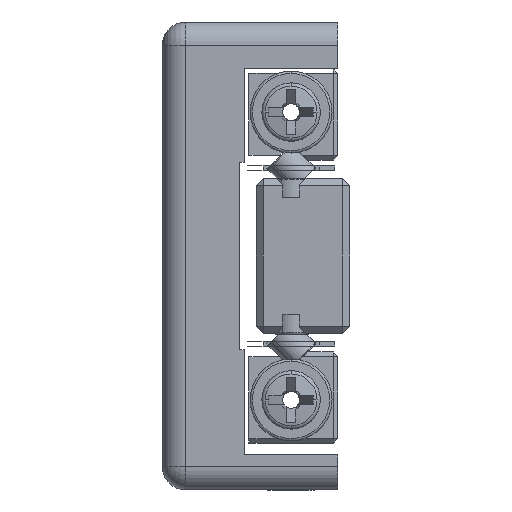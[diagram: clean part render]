
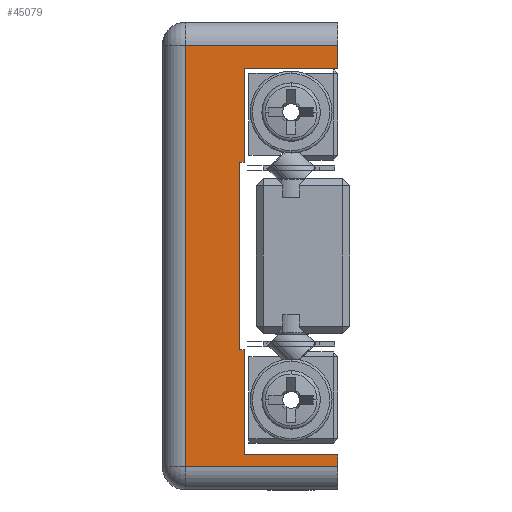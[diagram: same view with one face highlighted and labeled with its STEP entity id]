
A CAD part, left-side view. The second image highlights one B-rep face of the part: STEP entity #45079.
In plain terms, the highlighted planar face has unit normal (-1, 0, 0).
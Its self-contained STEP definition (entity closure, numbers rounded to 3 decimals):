
#1824 = ORIENTED_EDGE ( 'NONE', *, *, #7241, .F. ) ;
#1827 = ORIENTED_EDGE ( 'NONE', *, *, #7199, .F. ) ;
#1830 = ORIENTED_EDGE ( 'NONE', *, *, #7121, .F. ) ;
#1833 = ORIENTED_EDGE ( 'NONE', *, *, #7129, .F. ) ;
#1836 = ORIENTED_EDGE ( 'NONE', *, *, #7147, .F. ) ;
#1839 = ORIENTED_EDGE ( 'NONE', *, *, #7115, .F. ) ;
#1842 = ORIENTED_EDGE ( 'NONE', *, *, #7249, .F. ) ;
#1857 = ORIENTED_EDGE ( 'NONE', *, *, #7067, .T. ) ;
#1860 = ORIENTED_EDGE ( 'NONE', *, *, #7197, .T. ) ;
#1863 = ORIENTED_EDGE ( 'NONE', *, *, #7200, .T. ) ;
#1872 = ORIENTED_EDGE ( 'NONE', *, *, #7066, .T. ) ;
#1881 = ORIENTED_EDGE ( 'NONE', *, *, #7095, .T. ) ;
#7066 = EDGE_CURVE ( 'NONE', #46179, #46070, #16764, .T. ) ;
#7067 = EDGE_CURVE ( 'NONE', #46022, #46008, #16770, .T. ) ;
#7095 = EDGE_CURVE ( 'NONE', #46070, #25855, #16811, .T. ) ;
#7115 = EDGE_CURVE ( 'NONE', #46028, #46011, #16841, .T. ) ;
#7121 = EDGE_CURVE ( 'NONE', #46045, #25861, #16855, .T. ) ;
#7129 = EDGE_CURVE ( 'NONE', #25854, #46045, #16867, .T. ) ;
#7147 = EDGE_CURVE ( 'NONE', #46011, #25854, #16889, .T. ) ;
#7197 = EDGE_CURVE ( 'NONE', #46008, #46185, #16941, .T. ) ;
#7199 = EDGE_CURVE ( 'NONE', #25861, #25863, #16953, .T. ) ;
#7200 = EDGE_CURVE ( 'NONE', #46185, #46179, #16951, .T. ) ;
#7241 = EDGE_CURVE ( 'NONE', #25863, #25855, #17011, .T. ) ;
#7249 = EDGE_CURVE ( 'NONE', #46022, #46028, #17012, .T. ) ;
#10224 = EDGE_LOOP ( 'NONE', ( #1857, #1860, #1863, #1872, #1881, #1824, #1827, #1830, #1833, #1836, #1839, #1842 ) ) ;
#16764 = LINE ( 'NONE', #18546, #16773 ) ;
#16770 = LINE ( 'NONE', #18550, #16775 ) ;
#16773 = VECTOR ( 'NONE', #18557, 1000. ) ;
#16775 = VECTOR ( 'NONE', #18559, 1000. ) ;
#16811 = LINE ( 'NONE', #18664, #16813 ) ;
#16813 = VECTOR ( 'NONE', #18671, 1000. ) ;
#16841 = LINE ( 'NONE', #18713, #16849 ) ;
#16849 = VECTOR ( 'NONE', #18723, 1000. ) ;
#16855 = LINE ( 'NONE', #18735, #16858 ) ;
#16858 = VECTOR ( 'NONE', #18721, 1000. ) ;
#16867 = LINE ( 'NONE', #18754, #16870 ) ;
#16870 = VECTOR ( 'NONE', #18743, 1000. ) ;
#16889 = LINE ( 'NONE', #18820, #16892 ) ;
#16892 = VECTOR ( 'NONE', #18821, 1000. ) ;
#16941 = LINE ( 'NONE', #19207, #16949 ) ;
#16949 = VECTOR ( 'NONE', #19208, 1000. ) ;
#16951 = LINE ( 'NONE', #19209, #16957 ) ;
#16953 = LINE ( 'NONE', #19188, #16955 ) ;
#16955 = VECTOR ( 'NONE', #19190, 1000. ) ;
#16957 = VECTOR ( 'NONE', #19213, 1000. ) ;
#17011 = LINE ( 'NONE', #19333, #17014 ) ;
#17012 = LINE ( 'NONE', #19332, #17030 ) ;
#17014 = VECTOR ( 'NONE', #19310, 1000. ) ;
#17030 = VECTOR ( 'NONE', #19351, 1000. ) ;
#18546 = CARTESIAN_POINT ( 'NONE',  ( -27.224, 2.583, -9. ) ) ;
#18550 = CARTESIAN_POINT ( 'NONE',  ( -27.224, -4.917, -10. ) ) ;
#18557 = DIRECTION ( 'NONE',  ( 0., -1., 0. ) ) ;
#18559 = DIRECTION ( 'NONE',  ( 0., 0., 1. ) ) ;
#18664 = CARTESIAN_POINT ( 'NONE',  ( -27.224, -4.917, -10. ) ) ;
#18671 = DIRECTION ( 'NONE',  ( 0., 0., 1. ) ) ;
#18713 = CARTESIAN_POINT ( 'NONE',  ( -27.224, -0.917, 4. ) ) ;
#18721 = DIRECTION ( 'NONE',  ( 0., -1., 0. ) ) ;
#18723 = DIRECTION ( 'NONE',  ( 0., 0., -1. ) ) ;
#18735 = CARTESIAN_POINT ( 'NONE',  ( -27.224, -0.917, -4. ) ) ;
#18743 = DIRECTION ( 'NONE',  ( 0., 0., -1. ) ) ;
#18754 = CARTESIAN_POINT ( 'NONE',  ( -27.224, -0.717, -4. ) ) ;
#18820 = CARTESIAN_POINT ( 'NONE',  ( -27.224, -0.717, 4. ) ) ;
#18821 = DIRECTION ( 'NONE',  ( 0., 1., 0. ) ) ;
#19188 = CARTESIAN_POINT ( 'NONE',  ( -27.224, -0.917, -8.5 ) ) ;
#19190 = DIRECTION ( 'NONE',  ( 0., 0., -1. ) ) ;
#19207 = CARTESIAN_POINT ( 'NONE',  ( -27.224, 2.583, 9. ) ) ;
#19208 = DIRECTION ( 'NONE',  ( 0., 1., 0. ) ) ;
#19209 = CARTESIAN_POINT ( 'NONE',  ( -27.224, 1.583, -10. ) ) ;
#19213 = DIRECTION ( 'NONE',  ( 0., 0., -1. ) ) ;
#19310 = DIRECTION ( 'NONE',  ( 0., -1., 0. ) ) ;
#19332 = CARTESIAN_POINT ( 'NONE',  ( -27.224, -0.917, 8. ) ) ;
#19333 = CARTESIAN_POINT ( 'NONE',  ( -27.224, -4.917, -8.5 ) ) ;
#19351 = DIRECTION ( 'NONE',  ( 0., 1., 0. ) ) ;
#23958 = AXIS2_PLACEMENT_3D ( 'NONE', #53691, #53700, #53701 ) ;
#25854 = VERTEX_POINT ( 'NONE', #33448 ) ;
#25855 = VERTEX_POINT ( 'NONE', #33449 ) ;
#25861 = VERTEX_POINT ( 'NONE', #33455 ) ;
#25863 = VERTEX_POINT ( 'NONE', #33458 ) ;
#28686 = FACE_OUTER_BOUND ( 'NONE', #10224, .T. ) ;
#33448 = CARTESIAN_POINT ( 'NONE',  ( -27.224, -0.717, 4. ) ) ;
#33449 = CARTESIAN_POINT ( 'NONE',  ( -27.224, -4.917, -8.5 ) ) ;
#33455 = CARTESIAN_POINT ( 'NONE',  ( -27.224, -0.917, -4. ) ) ;
#33458 = CARTESIAN_POINT ( 'NONE',  ( -27.224, -0.917, -8.5 ) ) ;
#45079 = ADVANCED_FACE ( 'NONE', ( #28686 ), #53698, .F. ) ;
#46008 = VERTEX_POINT ( 'NONE', #54093 ) ;
#46011 = VERTEX_POINT ( 'NONE', #54096 ) ;
#46022 = VERTEX_POINT ( 'NONE', #54107 ) ;
#46028 = VERTEX_POINT ( 'NONE', #54113 ) ;
#46045 = VERTEX_POINT ( 'NONE', #54130 ) ;
#46070 = VERTEX_POINT ( 'NONE', #54156 ) ;
#46179 = VERTEX_POINT ( 'NONE', #47452 ) ;
#46185 = VERTEX_POINT ( 'NONE', #47468 ) ;
#47452 = CARTESIAN_POINT ( 'NONE',  ( -27.224, 1.583, -9. ) ) ;
#47468 = CARTESIAN_POINT ( 'NONE',  ( -27.224, 1.583, 9. ) ) ;
#53691 = CARTESIAN_POINT ( 'NONE',  ( -27.224, 2.583, -10. ) ) ;
#53698 = PLANE ( 'NONE',  #23958 ) ;
#53700 = DIRECTION ( 'NONE',  ( 1., 0., 0. ) ) ;
#53701 = DIRECTION ( 'NONE',  ( 0., 0., -1. ) ) ;
#54093 = CARTESIAN_POINT ( 'NONE',  ( -27.224, -4.917, 9. ) ) ;
#54096 = CARTESIAN_POINT ( 'NONE',  ( -27.224, -0.917, 4. ) ) ;
#54107 = CARTESIAN_POINT ( 'NONE',  ( -27.224, -4.917, 8. ) ) ;
#54113 = CARTESIAN_POINT ( 'NONE',  ( -27.224, -0.917, 8. ) ) ;
#54130 = CARTESIAN_POINT ( 'NONE',  ( -27.224, -0.717, -4. ) ) ;
#54156 = CARTESIAN_POINT ( 'NONE',  ( -27.224, -4.917, -9. ) ) ;
